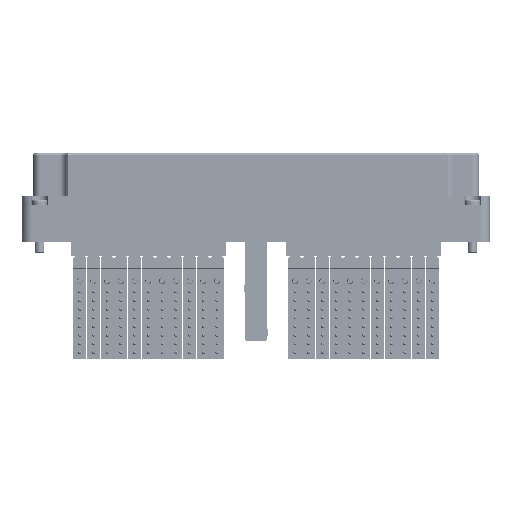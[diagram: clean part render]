
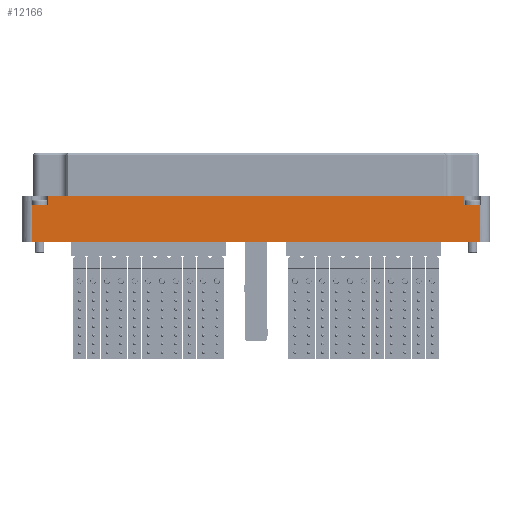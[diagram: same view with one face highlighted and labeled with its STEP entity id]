
A CAD part, left-side view. The second image highlights one B-rep face of the part: STEP entity #12166.
In plain terms, the highlighted planar face has unit normal (-1, 0, 0).
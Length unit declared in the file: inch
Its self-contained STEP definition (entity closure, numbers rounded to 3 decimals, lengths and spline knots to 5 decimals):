
#1377 = CARTESIAN_POINT ( 'NONE',  ( -0.395, -2.04, 0.33 ) ) ;
#3177 = ORIENTED_EDGE ( 'NONE', *, *, #6120, .T. ) ;
#3384 = VECTOR ( 'NONE', #45566, 39.37008 ) ;
#3441 = ORIENTED_EDGE ( 'NONE', *, *, #5495, .F. ) ;
#4556 = VERTEX_POINT ( 'NONE', #65461 ) ;
#5174 = CARTESIAN_POINT ( 'NONE',  ( -0.395, 2.04, 0.33 ) ) ;
#5271 = VECTOR ( 'NONE', #68915, 39.37008 ) ;
#5495 = EDGE_CURVE ( 'NONE', #7023, #6207, #60104, .T. ) ;
#5522 = CARTESIAN_POINT ( 'NONE',  ( -0.395, -1.892, 0.42 ) ) ;
#5956 = DIRECTION ( 'NONE',  ( 0., -1., 0. ) ) ;
#6120 = EDGE_CURVE ( 'NONE', #25639, #14408, #26355, .T. ) ;
#6207 = VERTEX_POINT ( 'NONE', #28367 ) ;
#6600 = DIRECTION ( 'NONE',  ( 0., 0., 1. ) ) ;
#7023 = VERTEX_POINT ( 'NONE', #79116 ) ;
#10114 = VECTOR ( 'NONE', #38450, 39.37008 ) ;
#10262 = VECTOR ( 'NONE', #51110, 39.37008 ) ;
#12166 = ADVANCED_FACE ( 'NONE', ( #48777 ), #54510, .F. ) ;
#12755 = CARTESIAN_POINT ( 'NONE',  ( -0.395, -1.892, 0.33 ) ) ;
#14408 = VERTEX_POINT ( 'NONE', #48128 ) ;
#17891 = CARTESIAN_POINT ( 'NONE',  ( -0.395, -1.892, 0.33 ) ) ;
#18753 = CARTESIAN_POINT ( 'NONE',  ( -0.395, -1.892, 0.33 ) ) ;
#18918 = LINE ( 'NONE', #43880, #5271 ) ;
#19551 = VECTOR ( 'NONE', #48953, 39.37008 ) ;
#22504 = ORIENTED_EDGE ( 'NONE', *, *, #48289, .F. ) ;
#23374 = ORIENTED_EDGE ( 'NONE', *, *, #52837, .F. ) ;
#25639 = VERTEX_POINT ( 'NONE', #28591 ) ;
#26355 = LINE ( 'NONE', #63213, #3384 ) ;
#28135 = AXIS2_PLACEMENT_3D ( 'NONE', #73763, #37677, #55315 ) ;
#28367 = CARTESIAN_POINT ( 'NONE',  ( -0.395, 1.892, 0.33 ) ) ;
#28402 = VECTOR ( 'NONE', #5956, 39.37008 ) ;
#28591 = CARTESIAN_POINT ( 'NONE',  ( -0.395, 2.04, 0. ) ) ;
#29545 = VERTEX_POINT ( 'NONE', #5522 ) ;
#33005 = VERTEX_POINT ( 'NONE', #1377 ) ;
#37677 = DIRECTION ( 'NONE',  ( 1., 0., 0. ) ) ;
#38009 = LINE ( 'NONE', #18753, #10262 ) ;
#38450 = DIRECTION ( 'NONE',  ( 0., 0., -1. ) ) ;
#38864 = CARTESIAN_POINT ( 'NONE',  ( -0.395, 2.04, 0.42 ) ) ;
#41673 = LINE ( 'NONE', #17891, #52412 ) ;
#43880 = CARTESIAN_POINT ( 'NONE',  ( -0.395, -2.04, 0.42 ) ) ;
#44080 = ORIENTED_EDGE ( 'NONE', *, *, #48928, .T. ) ;
#45566 = DIRECTION ( 'NONE',  ( 0., -1., 0. ) ) ;
#48128 = CARTESIAN_POINT ( 'NONE',  ( -0.395, -2.04, 0. ) ) ;
#48289 = EDGE_CURVE ( 'NONE', #4556, #29545, #18918, .T. ) ;
#48777 = FACE_OUTER_BOUND ( 'NONE', #67079, .T. ) ;
#48928 = EDGE_CURVE ( 'NONE', #61337, #29545, #41673, .T. ) ;
#48953 = DIRECTION ( 'NONE',  ( 0., 0., -1. ) ) ;
#49247 = CARTESIAN_POINT ( 'NONE',  ( -0.395, 1.892, 0.33 ) ) ;
#51110 = DIRECTION ( 'NONE',  ( 0., -1., 0. ) ) ;
#52412 = VECTOR ( 'NONE', #80158, 39.37008 ) ;
#52837 = EDGE_CURVE ( 'NONE', #33005, #14408, #60837, .T. ) ;
#54510 = PLANE ( 'NONE',  #28135 ) ;
#55315 = DIRECTION ( 'NONE',  ( 0., 1., 0. ) ) ;
#55899 = CARTESIAN_POINT ( 'NONE',  ( -0.395, -2.04, 0.42 ) ) ;
#57055 = EDGE_CURVE ( 'NONE', #6207, #4556, #80007, .T. ) ;
#60104 = LINE ( 'NONE', #5174, #28402 ) ;
#60441 = ORIENTED_EDGE ( 'NONE', *, *, #63585, .F. ) ;
#60837 = LINE ( 'NONE', #55899, #19551 ) ;
#61337 = VERTEX_POINT ( 'NONE', #12755 ) ;
#61394 = VECTOR ( 'NONE', #6600, 39.37008 ) ;
#63213 = CARTESIAN_POINT ( 'NONE',  ( -0.395, -2.04, 0. ) ) ;
#63585 = EDGE_CURVE ( 'NONE', #61337, #33005, #38009, .T. ) ;
#64256 = LINE ( 'NONE', #38864, #10114 ) ;
#65461 = CARTESIAN_POINT ( 'NONE',  ( -0.395, 1.892, 0.42 ) ) ;
#65894 = ORIENTED_EDGE ( 'NONE', *, *, #73273, .T. ) ;
#67079 = EDGE_LOOP ( 'NONE', ( #3177, #23374, #60441, #44080, #22504, #78749, #3441, #65894 ) ) ;
#68915 = DIRECTION ( 'NONE',  ( 0., -1., 0. ) ) ;
#73273 = EDGE_CURVE ( 'NONE', #7023, #25639, #64256, .T. ) ;
#73763 = CARTESIAN_POINT ( 'NONE',  ( -0.395, -2.04, 0.21 ) ) ;
#78749 = ORIENTED_EDGE ( 'NONE', *, *, #57055, .F. ) ;
#79116 = CARTESIAN_POINT ( 'NONE',  ( -0.395, 2.04, 0.33 ) ) ;
#80007 = LINE ( 'NONE', #49247, #61394 ) ;
#80158 = DIRECTION ( 'NONE',  ( 0., 0., 1. ) ) ;
